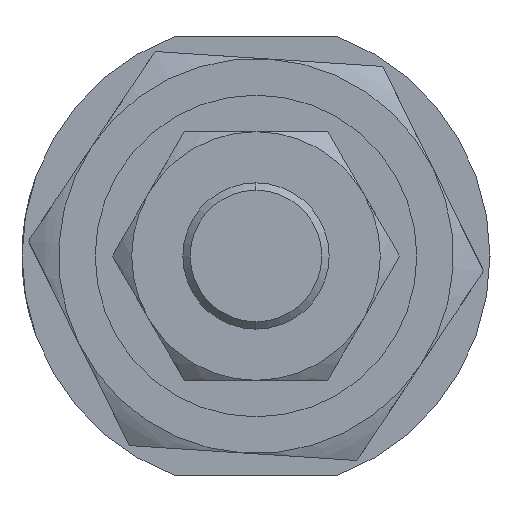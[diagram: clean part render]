
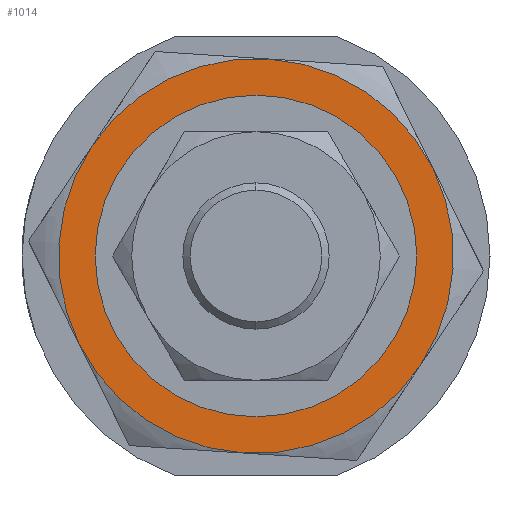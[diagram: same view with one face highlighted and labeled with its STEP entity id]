
A CAD part, left-side view. The second image highlights one B-rep face of the part: STEP entity #1014.
In plain terms, the highlighted planar face has unit normal (-1, 0, 0) as drawn and (0, 0, -1) by its records, which use the part's own axes.
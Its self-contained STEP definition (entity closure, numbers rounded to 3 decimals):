
#182 = AXIS2_PLACEMENT_3D ( 'NONE', #1406, #2217, #2740 ) ;
#195 = DIRECTION ( 'NONE',  ( 0., 0., 1. ) ) ;
#198 = CARTESIAN_POINT ( 'NONE',  ( -6.75, -11.691, -5. ) ) ;
#316 = ORIENTED_EDGE ( 'NONE', *, *, #495, .F. ) ;
#342 = PLANE ( 'NONE',  #843 ) ;
#432 = ORIENTED_EDGE ( 'NONE', *, *, #1797, .T. ) ;
#466 = DIRECTION ( 'NONE',  ( 1., 0., 0. ) ) ;
#472 = AXIS2_PLACEMENT_3D ( 'NONE', #1216, #1677, #1838 ) ;
#495 = EDGE_CURVE ( 'NONE', #1935, #1973, #3187, .T. ) ;
#521 = AXIS2_PLACEMENT_3D ( 'NONE', #2063, #1302, #2992 ) ;
#751 = DIRECTION ( 'NONE',  ( 1., 0., 0. ) ) ;
#843 = AXIS2_PLACEMENT_3D ( 'NONE', #2153, #195, #751 ) ;
#882 = EDGE_CURVE ( 'NONE', #2410, #1935, #1664, .T. ) ;
#1014 = ADVANCED_FACE ( 'NONE', ( #3150, #1338 ), #342, .F. ) ;
#1024 = CARTESIAN_POINT ( 'NONE',  ( 0., 0., -5. ) ) ;
#1073 = CARTESIAN_POINT ( 'NONE',  ( 0., 0., -5. ) ) ;
#1177 = AXIS2_PLACEMENT_3D ( 'NONE', #2590, #1297, #2540 ) ;
#1197 = VERTEX_POINT ( 'NONE', #2996 ) ;
#1216 = CARTESIAN_POINT ( 'NONE',  ( 0., 0., -5. ) ) ;
#1275 = EDGE_CURVE ( 'NONE', #1686, #1197, #2949, .T. ) ;
#1297 = DIRECTION ( 'NONE',  ( 0., 0., 1. ) ) ;
#1302 = DIRECTION ( 'NONE',  ( 0., 0., 1. ) ) ;
#1332 = CARTESIAN_POINT ( 'NONE',  ( -6.75, 11.691, -5. ) ) ;
#1338 = FACE_OUTER_BOUND ( 'NONE', #2337, .T. ) ;
#1347 = CIRCLE ( 'NONE', #1641, 13.5 ) ;
#1369 = CARTESIAN_POINT ( 'NONE',  ( 0., 0., -5. ) ) ;
#1398 = AXIS2_PLACEMENT_3D ( 'NONE', #1369, #1435, #1844 ) ;
#1406 = CARTESIAN_POINT ( 'NONE',  ( 0., 0., -5. ) ) ;
#1435 = DIRECTION ( 'NONE',  ( 0., 0., 1. ) ) ;
#1468 = VERTEX_POINT ( 'NONE', #198 ) ;
#1495 = DIRECTION ( 'NONE',  ( 0., 0., 1. ) ) ;
#1496 = DIRECTION ( 'NONE',  ( 0., 0., 1. ) ) ;
#1511 = EDGE_CURVE ( 'NONE', #3195, #1736, #2691, .T. ) ;
#1571 = EDGE_LOOP ( 'NONE', ( #432, #2819 ) ) ;
#1606 = CARTESIAN_POINT ( 'NONE',  ( -13.5, 0., -5. ) ) ;
#1613 = CIRCLE ( 'NONE', #472, 13.5 ) ;
#1641 = AXIS2_PLACEMENT_3D ( 'NONE', #1073, #1496, #1904 ) ;
#1664 = CIRCLE ( 'NONE', #1398, 13.5 ) ;
#1677 = DIRECTION ( 'NONE',  ( 0., 0., 1. ) ) ;
#1686 = VERTEX_POINT ( 'NONE', #2321 ) ;
#1736 = VERTEX_POINT ( 'NONE', #1606 ) ;
#1797 = EDGE_CURVE ( 'NONE', #1197, #1686, #1897, .T. ) ;
#1806 = CARTESIAN_POINT ( 'NONE',  ( 13.5, 0., -5. ) ) ;
#1838 = DIRECTION ( 'NONE',  ( 1., 0., 0. ) ) ;
#1844 = DIRECTION ( 'NONE',  ( 1., 0., 0. ) ) ;
#1860 = DIRECTION ( 'NONE',  ( 0., 0., 1. ) ) ;
#1897 = CIRCLE ( 'NONE', #521, 10. ) ;
#1904 = DIRECTION ( 'NONE',  ( 1., 0., 0. ) ) ;
#1912 = CARTESIAN_POINT ( 'NONE',  ( 6.75, -11.691, -5. ) ) ;
#1923 = ORIENTED_EDGE ( 'NONE', *, *, #2641, .F. ) ;
#1935 = VERTEX_POINT ( 'NONE', #1806 ) ;
#1952 = EDGE_CURVE ( 'NONE', #1736, #1468, #1347, .T. ) ;
#1973 = VERTEX_POINT ( 'NONE', #2050 ) ;
#2050 = CARTESIAN_POINT ( 'NONE',  ( 6.75, 11.691, -5. ) ) ;
#2063 = CARTESIAN_POINT ( 'NONE',  ( 0., 0., -5. ) ) ;
#2116 = EDGE_CURVE ( 'NONE', #1468, #2410, #3080, .T. ) ;
#2153 = CARTESIAN_POINT ( 'NONE',  ( 0., 0., -5. ) ) ;
#2177 = ORIENTED_EDGE ( 'NONE', *, *, #1511, .F. ) ;
#2217 = DIRECTION ( 'NONE',  ( 0., 0., 1. ) ) ;
#2278 = ORIENTED_EDGE ( 'NONE', *, *, #1952, .F. ) ;
#2314 = DIRECTION ( 'NONE',  ( 1., 0., 0. ) ) ;
#2321 = CARTESIAN_POINT ( 'NONE',  ( -10., 0., -5. ) ) ;
#2337 = EDGE_LOOP ( 'NONE', ( #316, #2656, #2972, #2278, #2177, #1923 ) ) ;
#2410 = VERTEX_POINT ( 'NONE', #1912 ) ;
#2519 = AXIS2_PLACEMENT_3D ( 'NONE', #1024, #1860, #466 ) ;
#2540 = DIRECTION ( 'NONE',  ( 1., 0., 0. ) ) ;
#2590 = CARTESIAN_POINT ( 'NONE',  ( 0., 0., -5. ) ) ;
#2641 = EDGE_CURVE ( 'NONE', #1973, #3195, #1613, .T. ) ;
#2656 = ORIENTED_EDGE ( 'NONE', *, *, #882, .F. ) ;
#2691 = CIRCLE ( 'NONE', #2997, 13.5 ) ;
#2740 = DIRECTION ( 'NONE',  ( 1., 0., 0. ) ) ;
#2819 = ORIENTED_EDGE ( 'NONE', *, *, #1275, .T. ) ;
#2884 = CARTESIAN_POINT ( 'NONE',  ( 0., 0., -5. ) ) ;
#2949 = CIRCLE ( 'NONE', #182, 10. ) ;
#2972 = ORIENTED_EDGE ( 'NONE', *, *, #2116, .F. ) ;
#2992 = DIRECTION ( 'NONE',  ( 1., 0., 0. ) ) ;
#2996 = CARTESIAN_POINT ( 'NONE',  ( 10., 0., -5. ) ) ;
#2997 = AXIS2_PLACEMENT_3D ( 'NONE', #2884, #1495, #2314 ) ;
#3080 = CIRCLE ( 'NONE', #2519, 13.5 ) ;
#3150 = FACE_BOUND ( 'NONE', #1571, .T. ) ;
#3187 = CIRCLE ( 'NONE', #1177, 13.5 ) ;
#3195 = VERTEX_POINT ( 'NONE', #1332 ) ;
